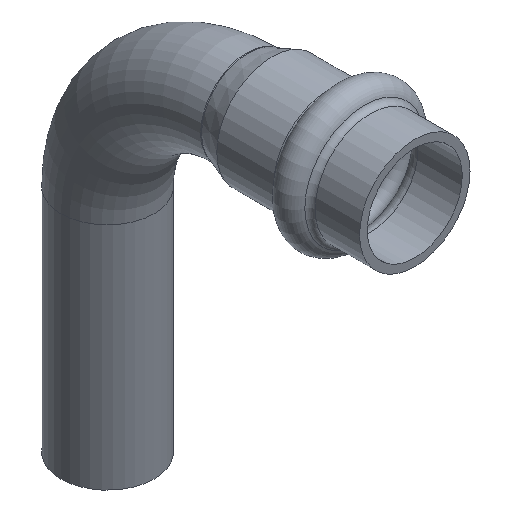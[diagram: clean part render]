
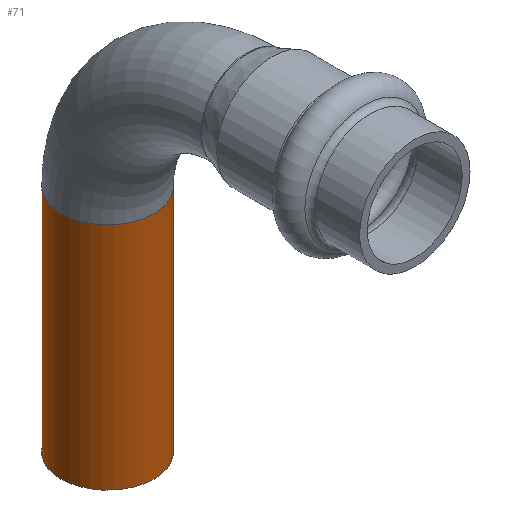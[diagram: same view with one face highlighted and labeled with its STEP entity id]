
A CAD part, isometric view. The second image highlights one B-rep face of the part: STEP entity #71.
In plain terms, the highlighted cylindrical face has radius 7.5 mm (diameter 15 mm), a full revolution.
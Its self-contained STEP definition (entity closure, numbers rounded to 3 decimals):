
#71=ADVANCED_FACE('',(#236,#238),#240,.T.);
#236=FACE_OUTER_BOUND('',#237,.T.);
#237=EDGE_LOOP('',(#305));
#238=FACE_OUTER_BOUND('',#239,.T.);
#239=EDGE_LOOP('',(#306));
#240=CYLINDRICAL_SURFACE('',#241,7.5);
#241=AXIS2_PLACEMENT_3D('',#242,#243,#244);
#242=CARTESIAN_POINT('',(0.,49.5,-22.5));
#243=DIRECTION('',(0.,0.,-1.));
#244=DIRECTION('',(-1.,0.,0.));
#305=ORIENTED_EDGE('',*,*,#335,.T.);
#306=ORIENTED_EDGE('',*,*,#333,.F.);
#333=EDGE_CURVE('',#378,#378,#379,.T.);
#335=EDGE_CURVE('',#382,#382,#383,.T.);
#378=VERTEX_POINT('',#488);
#379=CIRCLE('',#489,7.5);
#382=VERTEX_POINT('',#498);
#383=CIRCLE('',#499,7.5);
#488=CARTESIAN_POINT('',(-7.5,49.5,-59.5));
#489=AXIS2_PLACEMENT_3D('',#490,#491,#492);
#490=CARTESIAN_POINT('',(0.,49.5,-59.5));
#491=DIRECTION('',(0.,0.,-1.));
#492=DIRECTION('',(-1.,0.,0.));
#498=CARTESIAN_POINT('',(-7.5,49.5,-22.5));
#499=AXIS2_PLACEMENT_3D('',#500,#501,#502);
#500=CARTESIAN_POINT('',(0.,49.5,-22.5));
#501=DIRECTION('',(0.,0.,-1.));
#502=DIRECTION('',(-1.,0.,0.));
